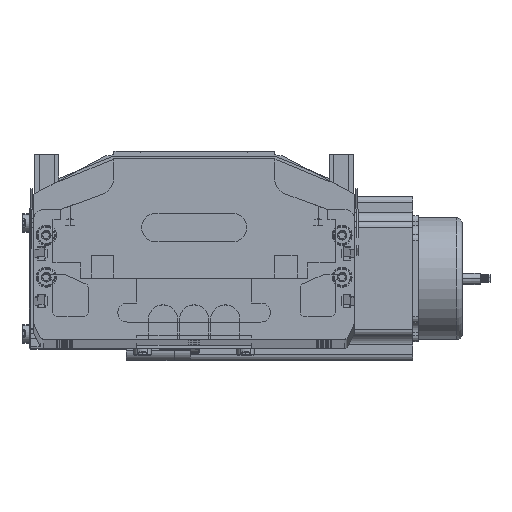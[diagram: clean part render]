
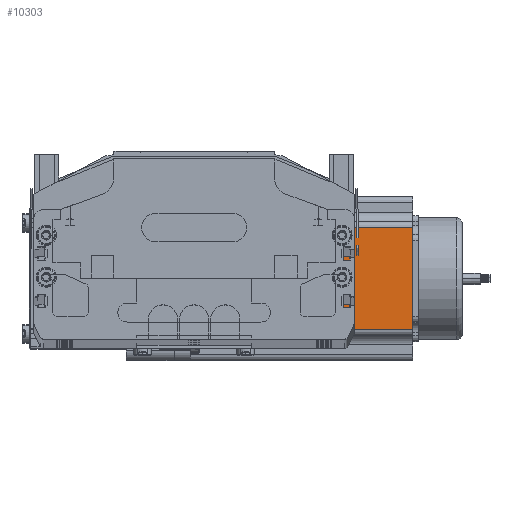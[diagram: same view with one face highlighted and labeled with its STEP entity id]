
A CAD part, top view. The second image highlights one B-rep face of the part: STEP entity #10303.
In plain terms, the highlighted planar face has unit normal (0, 0, 1) as drawn and (0, -1, 0) by its records, which use the part's own axes.
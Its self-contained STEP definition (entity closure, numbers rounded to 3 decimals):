
#10201 = ORIENTED_EDGE ( 'NONE', *, *, #10203, .T. ) ;
#10202 = EDGE_CURVE ( 'NONE', #10320, #10302, #20075, .T. ) ;
#10203 = EDGE_CURVE ( 'NONE', #10316, #10320, #20059, .T. ) ;
#10204 = ORIENTED_EDGE ( 'NONE', *, *, #10202, .T. ) ;
#10205 = EDGE_CURVE ( 'NONE', #10304, #10302, #20054, .T. ) ;
#10207 = EDGE_CURVE ( 'NONE', #10304, #10316, #20048, .T. ) ;
#10208 = ORIENTED_EDGE ( 'NONE', *, *, #10207, .T. ) ;
#10266 = ORIENTED_EDGE ( 'NONE', *, *, #10205, .F. ) ;
#10302 = VERTEX_POINT ( 'NONE', #20170 ) ;
#10303 = ADVANCED_FACE ( 'NONE', ( #20166 ), #20163, .F. ) ;
#10304 = VERTEX_POINT ( 'NONE', #20174 ) ;
#10315 = EDGE_LOOP ( 'NONE', ( #10201, #10204, #10266, #10208 ) ) ;
#10316 = VERTEX_POINT ( 'NONE', #20149 ) ;
#10320 = VERTEX_POINT ( 'NONE', #17537 ) ;
#17537 = CARTESIAN_POINT ( 'NONE',  ( 69.74, 0., 0. ) ) ;
#20048 = LINE ( 'NONE', #20050, #20049 ) ;
#20049 = VECTOR ( 'NONE', #20211, 1000. ) ;
#20050 = CARTESIAN_POINT ( 'NONE',  ( 16.16, 0., 116.5 ) ) ;
#20051 = DIRECTION ( 'NONE',  ( 1., 0., 0. ) ) ;
#20052 = VECTOR ( 'NONE', #20051, 1000. ) ;
#20053 = CARTESIAN_POINT ( 'NONE',  ( 0., 0., 116.5 ) ) ;
#20054 = LINE ( 'NONE', #20053, #20052 ) ;
#20056 = DIRECTION ( 'NONE',  ( 1., 0., 0. ) ) ;
#20057 = VECTOR ( 'NONE', #20056, 1000. ) ;
#20058 = CARTESIAN_POINT ( 'NONE',  ( 0., 0., 0. ) ) ;
#20059 = LINE ( 'NONE', #20058, #20057 ) ;
#20061 = DIRECTION ( 'NONE',  ( 0., 0., 1. ) ) ;
#20062 = VECTOR ( 'NONE', #20061, 1000. ) ;
#20074 = CARTESIAN_POINT ( 'NONE',  ( 69.74, 0., 116.5 ) ) ;
#20075 = LINE ( 'NONE', #20074, #20062 ) ;
#20149 = CARTESIAN_POINT ( 'NONE',  ( 16.16, 0., 0. ) ) ;
#20156 = DIRECTION ( 'NONE',  ( 0., 0., 1. ) ) ;
#20157 = DIRECTION ( 'NONE',  ( 0., 1., 0. ) ) ;
#20158 = CARTESIAN_POINT ( 'NONE',  ( 0., 0., 116.5 ) ) ;
#20163 = PLANE ( 'NONE',  #20178 ) ;
#20166 = FACE_OUTER_BOUND ( 'NONE', #10315, .T. ) ;
#20170 = CARTESIAN_POINT ( 'NONE',  ( 69.74, 0., 116.5 ) ) ;
#20174 = CARTESIAN_POINT ( 'NONE',  ( 16.16, 0., 116.5 ) ) ;
#20178 = AXIS2_PLACEMENT_3D ( 'NONE', #20158, #20157, #20156 ) ;
#20211 = DIRECTION ( 'NONE',  ( 0., 0., -1. ) ) ;
